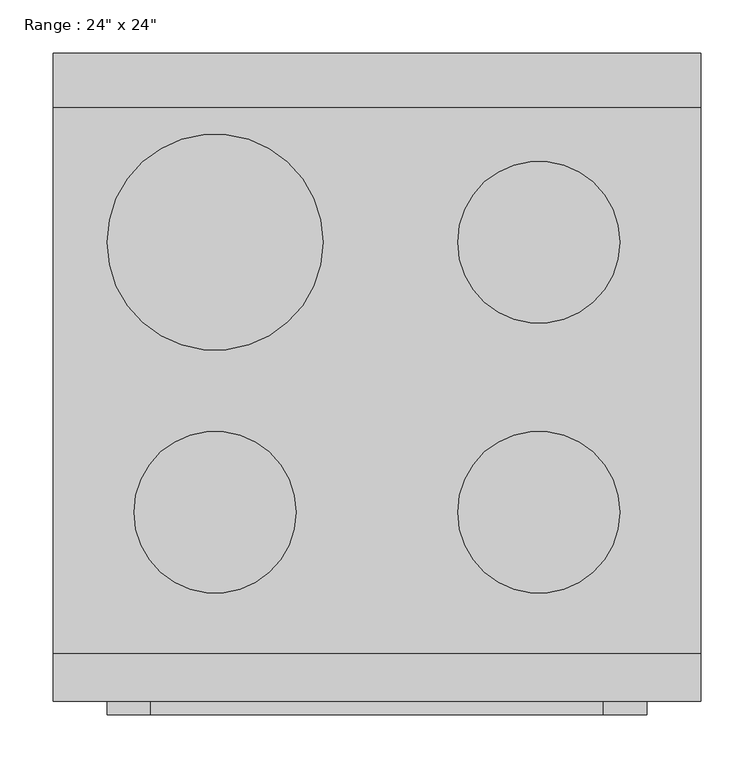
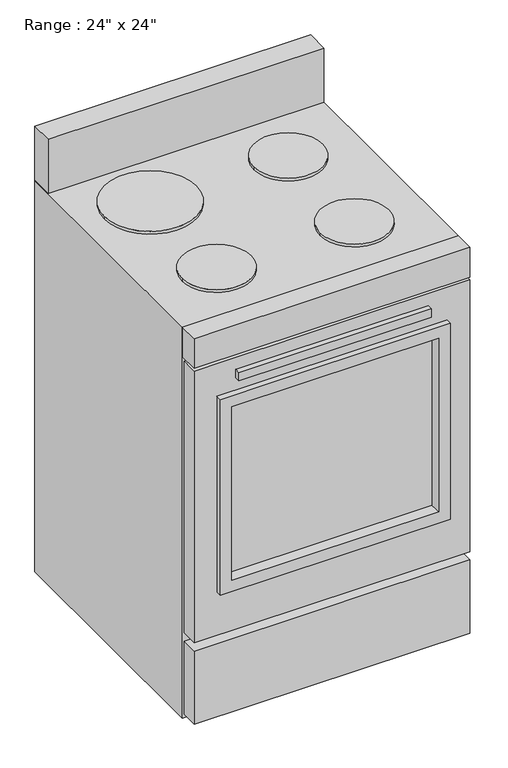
"""IFC4 building model written with IfcOpenShell, lengths in millimetres: proxy geometry."""

from ifc_helpers import new_model, si_unit, point, frame, frame_2d, origin, place, context, project, spatial, polyline, circle_curve, trimmed, segment, composite_curve, outline, extrude, source, transform, mapped, element, save


def proxy_1dfdf5de(model_context):
    return source(origin(), model_context, "Body", "SweptSolid", [
        extrude(outline(polyline([(517.525, -12.7), (91.687309, -12.7), (91.687309, 0.0), (517.525, 0.0), (517.525, -12.7)])), frame((0.0, 0.0, 791.2768639), z_axis=(0.0, 0.0, 1.0), x_axis=(1.0, 0.0, 0.0)), (0.0, 0.0, 1.0), 19.05),
        extrude(outline(polyline([(533.4, 12.7), (76.2, 12.7), (76.2, 19.05), (533.4, 19.05), (533.4, 12.7)])), frame((0.0, 0.0, 330.2), z_axis=(0.0, 0.0, 1.0), x_axis=(1.0, 0.0, 0.0)), (0.0, 0.0, 1.0), 406.4),
        extrude(outline(polyline([(609.6, 0.0), (0.0, 0.0), (0.0, 44.45), (609.6, 44.45), (609.6, 0.0)])), frame((0.0, 0.0, 844.7720355), z_axis=(0.0, 0.0, 1.0), x_axis=(1.0, 0.0, 0.0)), (0.0, 0.0, 1.0), 69.6279645),
        extrude(outline(polyline([(762.0, 558.8), (762.0, 50.8), (304.8, 50.8), (304.8, 558.8), (762.0, 558.8)]), holes=[polyline([(736.6, 533.4), (330.2, 533.4), (330.2, 76.2), (736.6, 76.2), (736.6, 533.4)])]), frame((0.0, -12.7, 0.0), z_axis=(0.0, 1.0, 0.0), x_axis=(0.0, 0.0, 1.0)), (0.0, 0.0, 1.0), 38.1),
        extrude(outline(composite_curve([segment(trimmed(circle_curve(frame_2d((152.4, 431.8)), 101.6), [point((50.8, 431.8))], [point((254.0, 431.8))], False, "CARTESIAN"), True, "CONTINUOUS"), segment(trimmed(circle_curve(frame_2d((152.4, 431.8)), 101.6), [point((254.0, 431.8))], [point((50.8, 431.8))], False, "CARTESIAN"), True, "CONTINUOUS")], self_intersect=False)), frame((0.0, 0.0, 914.4), z_axis=(0.0, 0.0, 1.0), x_axis=(1.0, 0.0, 0.0)), (0.0, 0.0, 1.0), 6.35),
        extrude(outline(composite_curve([segment(trimmed(circle_curve(frame_2d((457.2, 431.8)), 76.2), [point((381.0, 431.8))], [point((533.4, 431.8))], False, "CARTESIAN"), True, "CONTINUOUS"), segment(trimmed(circle_curve(frame_2d((457.2, 431.8)), 76.2), [point((533.4, 431.8))], [point((381.0, 431.8))], False, "CARTESIAN"), True, "CONTINUOUS")], self_intersect=False)), frame((0.0, 0.0, 914.4), z_axis=(0.0, 0.0, 1.0), x_axis=(1.0, 0.0, 0.0)), (0.0, 0.0, 1.0), 6.35),
        extrude(outline(composite_curve([segment(trimmed(circle_curve(frame_2d((457.2, 177.8)), 76.2), [point((381.0, 177.8))], [point((533.4, 177.8))], False, "CARTESIAN"), True, "CONTINUOUS"), segment(trimmed(circle_curve(frame_2d((457.2, 177.8)), 76.2), [point((533.4, 177.8))], [point((381.0, 177.8))], False, "CARTESIAN"), True, "CONTINUOUS")], self_intersect=False)), frame((0.0, 0.0, 914.4), z_axis=(0.0, 0.0, 1.0), x_axis=(1.0, 0.0, 0.0)), (0.0, 0.0, 1.0), 6.35),
        extrude(outline(composite_curve([segment(trimmed(circle_curve(frame_2d((152.4, 177.8)), 76.2), [point((76.2, 177.8))], [point((228.6, 177.8))], False, "CARTESIAN"), True, "CONTINUOUS"), segment(trimmed(circle_curve(frame_2d((152.4, 177.8)), 76.2), [point((228.6, 177.8))], [point((76.2, 177.8))], False, "CARTESIAN"), True, "CONTINUOUS")], self_intersect=False)), frame((0.0, 0.0, 914.4), z_axis=(0.0, 0.0, 1.0), x_axis=(1.0, 0.0, 0.0)), (0.0, 0.0, 1.0), 6.35),
        extrude(outline(polyline([(25.4, 609.6), (584.2, 609.6), (584.2, 584.2), (25.4, 584.2), (25.4, 609.6)])), frame((0.0, 0.0, 254.0), z_axis=(0.0, 0.0, 1.0), x_axis=(1.0, 0.0, 0.0)), (0.0, 0.0, 1.0), 635.2220355),
        extrude(outline(polyline([(838.4220355, 609.6), (838.4220355, 0.0), (203.2, 0.0), (203.2, 609.6), (838.4220355, 609.6)]), holes=[polyline([(762.0, 558.8), (304.8, 558.8), (304.8, 50.8), (762.0, 50.8), (762.0, 558.8)])]), frame((0.0, 0.0, 0.0), z_axis=(0.0, 1.0, 0.0), x_axis=(0.0, 0.0, 1.0)), (0.0, 0.0, 1.0), 38.1),
        extrude(outline(polyline([(609.6, 0.0), (0.0, 0.0), (0.0, 38.1), (609.6, 38.1), (609.6, 0.0)])), frame((0.0, 0.0, 12.7), z_axis=(0.0, 0.0, 1.0), x_axis=(1.0, 0.0, 0.0)), (0.0, 0.0, 1.0), 171.45),
        extrude(outline(polyline([(914.4, 609.6), (914.4, 0.0), (0.0, 0.0), (0.0, 609.6), (914.4, 609.6)]), holes=[polyline([(889.2220355, 584.2), (254.0, 584.2), (254.0, 25.4), (889.2220355, 25.4), (889.2220355, 584.2)])]), frame((0.0, 44.45, 0.0), z_axis=(0.0, 1.0, 0.0), x_axis=(0.0, 0.0, 1.0)), (0.0, 0.0, 1.0), 565.15),
        extrude(outline(polyline([(609.6, 609.6), (609.6, 558.8), (0.0, 558.8), (0.0, 609.6), (609.6, 609.6)])), frame((0.0, 0.0, 914.4), z_axis=(0.0, 0.0, 1.0), x_axis=(1.0, 0.0, 0.0)), (0.0, 0.0, 1.0), 127.0),
    ])


if __name__ == "__main__":
    model = new_model("IFC4")
    model_context = context("Model", 3, world=origin())
    ifc_project = project(units=[si_unit("LENGTHUNIT", "METRE", prefix="MILLI")], contexts=[model_context])
    site = spatial("IfcSite", under=ifc_project)
    building = spatial("IfcBuilding", under=site)
    placement = place(None, origin())
    proxy_shape = proxy_1dfdf5de(model_context)
    element("IfcBuildingElementProxy", 1, Name="Range : 24\" x 24\"", ObjectType="Range : 24\" x 24\"", at=placement, inside=building, context=model_context, shape_type="MappedRepresentation", body=[
        mapped(proxy_shape, transform((0.0, 0.0, 0.0), x_axis=(1.0, 0.0, 0.0), y_axis=(0.0, 1.0, 0.0), z_axis=(0.0, 0.0, 1.0))),
    ])
    save(model, "model.ifc")
